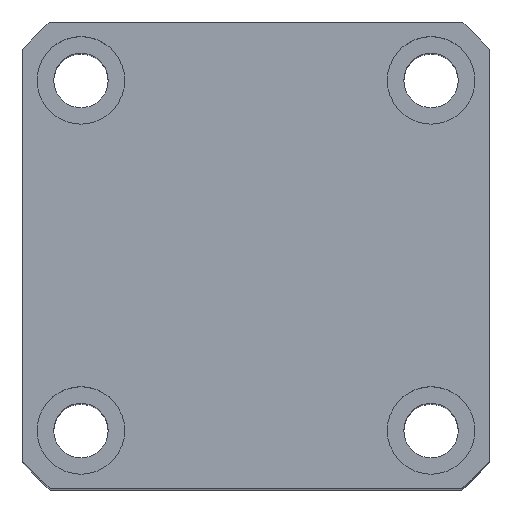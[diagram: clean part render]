
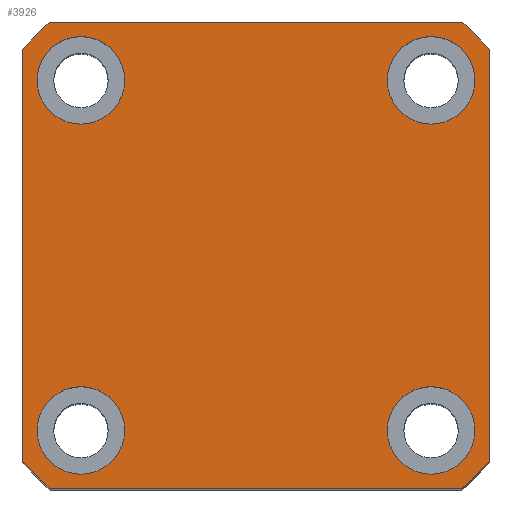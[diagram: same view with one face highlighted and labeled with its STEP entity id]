
A CAD part, top view. The second image highlights one B-rep face of the part: STEP entity #3926.
In plain terms, the highlighted planar face has unit normal (0, 0, 1) as drawn and (1, 0, 0) by its records, which use the part's own axes.
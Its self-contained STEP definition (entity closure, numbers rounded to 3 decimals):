
#78 = ORIENTED_EDGE ( 'NONE', *, *, #1581, .T. ) ;
#84 = ORIENTED_EDGE ( 'NONE', *, *, #10151, .F. ) ;
#185 = ORIENTED_EDGE ( 'NONE', *, *, #8664, .T. ) ;
#238 = AXIS2_PLACEMENT_3D ( 'NONE', #6319, #1394, #7159 ) ;
#306 = CIRCLE ( 'NONE', #5769, 32. ) ;
#332 = EDGE_CURVE ( 'NONE', #7781, #4772, #3427, .T. ) ;
#397 = CARTESIAN_POINT ( 'NONE',  ( 70., -24., -21.166 ) ) ;
#604 = EDGE_LOOP ( 'NONE', ( #185, #78, #8586, #9325, #6692, #9206, #8552, #9698 ) ) ;
#608 = CARTESIAN_POINT ( 'NONE',  ( 70., 18., 22.5 ) ) ;
#640 = VECTOR ( 'NONE', #2888, 1000. ) ;
#647 = CARTESIAN_POINT ( 'NONE',  ( 70., -21.166, -24. ) ) ;
#672 = CARTESIAN_POINT ( 'NONE',  ( 70., -18., -22.5 ) ) ;
#858 = DIRECTION ( 'NONE',  ( 1., 0., 0. ) ) ;
#996 = CARTESIAN_POINT ( 'NONE',  ( 70., 21.166, -24. ) ) ;
#1032 = EDGE_CURVE ( 'NONE', #8938, #4831, #306, .T. ) ;
#1337 = DIRECTION ( 'NONE',  ( 1., 0., 0. ) ) ;
#1354 = VERTEX_POINT ( 'NONE', #8205 ) ;
#1369 = CARTESIAN_POINT ( 'NONE',  ( 70., 0., 0. ) ) ;
#1394 = DIRECTION ( 'NONE',  ( 1., 0., 0. ) ) ;
#1402 = CARTESIAN_POINT ( 'NONE',  ( 70., 18., -18. ) ) ;
#1406 = CIRCLE ( 'NONE', #3997, 4.5 ) ;
#1581 = EDGE_CURVE ( 'NONE', #1654, #10043, #10609, .T. ) ;
#1593 = VERTEX_POINT ( 'NONE', #3388 ) ;
#1635 = CIRCLE ( 'NONE', #10168, 4.5 ) ;
#1654 = VERTEX_POINT ( 'NONE', #996 ) ;
#1690 = VECTOR ( 'NONE', #5628, 1000. ) ;
#1712 = AXIS2_PLACEMENT_3D ( 'NONE', #3298, #9077, #4128 ) ;
#1793 = ORIENTED_EDGE ( 'NONE', *, *, #2963, .F. ) ;
#1969 = EDGE_LOOP ( 'NONE', ( #7516, #6252 ) ) ;
#2067 = CIRCLE ( 'NONE', #238, 4.5 ) ;
#2119 = DIRECTION ( 'NONE',  ( 0., 0., -1. ) ) ;
#2189 = VERTEX_POINT ( 'NONE', #608 ) ;
#2191 = CARTESIAN_POINT ( 'NONE',  ( 70., -21.166, 24. ) ) ;
#2221 = DIRECTION ( 'NONE',  ( 0., 0., -1. ) ) ;
#2369 = DIRECTION ( 'NONE',  ( 1., 0., 0. ) ) ;
#2433 = AXIS2_PLACEMENT_3D ( 'NONE', #7311, #2369, #8147 ) ;
#2467 = AXIS2_PLACEMENT_3D ( 'NONE', #1402, #7166, #2221 ) ;
#2581 = ORIENTED_EDGE ( 'NONE', *, *, #332, .F. ) ;
#2651 = CARTESIAN_POINT ( 'NONE',  ( 70., 18., 13.5 ) ) ;
#2720 = CARTESIAN_POINT ( 'NONE',  ( 70., 0., 0. ) ) ;
#2792 = EDGE_CURVE ( 'NONE', #2189, #5524, #2067, .T. ) ;
#2824 = DIRECTION ( 'NONE',  ( 0., 0., 1. ) ) ;
#2838 = VERTEX_POINT ( 'NONE', #397 ) ;
#2888 = DIRECTION ( 'NONE',  ( 0., 0., -1. ) ) ;
#2950 = FACE_OUTER_BOUND ( 'NONE', #604, .T. ) ;
#2963 = EDGE_CURVE ( 'NONE', #6634, #3888, #7871, .T. ) ;
#2990 = AXIS2_PLACEMENT_3D ( 'NONE', #9828, #4906, #10648 ) ;
#3024 = CARTESIAN_POINT ( 'NONE',  ( 70., -18., 13.5 ) ) ;
#3231 = EDGE_CURVE ( 'NONE', #5524, #2189, #6069, .T. ) ;
#3289 = AXIS2_PLACEMENT_3D ( 'NONE', #3933, #4073, #3966 ) ;
#3298 = CARTESIAN_POINT ( 'NONE',  ( 70., 18., 18. ) ) ;
#3328 = PLANE ( 'NONE',  #7933 ) ;
#3388 = CARTESIAN_POINT ( 'NONE',  ( 70., -18., 22.5 ) ) ;
#3420 = AXIS2_PLACEMENT_3D ( 'NONE', #7413, #7448, #7482 ) ;
#3427 = CIRCLE ( 'NONE', #3420, 4.5 ) ;
#3491 = EDGE_LOOP ( 'NONE', ( #84, #2581 ) ) ;
#3549 = DIRECTION ( 'NONE',  ( 0., 0., -1. ) ) ;
#3629 = DIRECTION ( 'NONE',  ( 1., 0., 0. ) ) ;
#3649 = CARTESIAN_POINT ( 'NONE',  ( 70., 24., 21.166 ) ) ;
#3682 = EDGE_CURVE ( 'NONE', #10043, #8938, #6439, .T. ) ;
#3778 = VERTEX_POINT ( 'NONE', #647 ) ;
#3888 = VERTEX_POINT ( 'NONE', #8198 ) ;
#3926 = ADVANCED_FACE ( 'NONE', ( #5938, #7340, #9528, #5170, #2950 ), #3328, .T. ) ;
#3933 = CARTESIAN_POINT ( 'NONE',  ( 70., 0., 0. ) ) ;
#3966 = DIRECTION ( 'NONE',  ( 0., 0., -1. ) ) ;
#3990 = VECTOR ( 'NONE', #2824, 1000. ) ;
#3997 = AXIS2_PLACEMENT_3D ( 'NONE', #5808, #858, #6636 ) ;
#4073 = DIRECTION ( 'NONE',  ( 1., 0., 0. ) ) ;
#4128 = DIRECTION ( 'NONE',  ( 0., 0., -1. ) ) ;
#4151 = CIRCLE ( 'NONE', #7829, 32. ) ;
#4164 = DIRECTION ( 'NONE',  ( 0., 0., -1. ) ) ;
#4302 = ORIENTED_EDGE ( 'NONE', *, *, #7116, .F. ) ;
#4772 = VERTEX_POINT ( 'NONE', #672 ) ;
#4831 = VERTEX_POINT ( 'NONE', #8190 ) ;
#4905 = EDGE_CURVE ( 'NONE', #3888, #6634, #1406, .T. ) ;
#4906 = DIRECTION ( 'NONE',  ( 1., 0., 0. ) ) ;
#5060 = LINE ( 'NONE', #7941, #640 ) ;
#5170 = FACE_BOUND ( 'NONE', #1969, .T. ) ;
#5360 = CIRCLE ( 'NONE', #6851, 4.5 ) ;
#5414 = EDGE_CURVE ( 'NONE', #4831, #7783, #10274, .T. ) ;
#5431 = ORIENTED_EDGE ( 'NONE', *, *, #4905, .F. ) ;
#5487 = CARTESIAN_POINT ( 'NONE',  ( 70., 18., -13.5 ) ) ;
#5524 = VERTEX_POINT ( 'NONE', #2651 ) ;
#5628 = DIRECTION ( 'NONE',  ( 0., 1., 0. ) ) ;
#5681 = ORIENTED_EDGE ( 'NONE', *, *, #10480, .F. ) ;
#5769 = AXIS2_PLACEMENT_3D ( 'NONE', #1369, #8211, #2119 ) ;
#5808 = CARTESIAN_POINT ( 'NONE',  ( 70., 18., -18. ) ) ;
#5938 = FACE_BOUND ( 'NONE', #3491, .T. ) ;
#6069 = CIRCLE ( 'NONE', #1712, 4.5 ) ;
#6086 = LINE ( 'NONE', #10548, #1690 ) ;
#6252 = ORIENTED_EDGE ( 'NONE', *, *, #2792, .F. ) ;
#6268 = CARTESIAN_POINT ( 'NONE',  ( 70., -18., 18. ) ) ;
#6319 = CARTESIAN_POINT ( 'NONE',  ( 70., 18., 18. ) ) ;
#6439 = LINE ( 'NONE', #7773, #3990 ) ;
#6532 = CARTESIAN_POINT ( 'NONE',  ( 70., 24., 24. ) ) ;
#6634 = VERTEX_POINT ( 'NONE', #5487 ) ;
#6636 = DIRECTION ( 'NONE',  ( 0., 0., -1. ) ) ;
#6692 = ORIENTED_EDGE ( 'NONE', *, *, #5414, .T. ) ;
#6851 = AXIS2_PLACEMENT_3D ( 'NONE', #6268, #1337, #7099 ) ;
#7066 = CIRCLE ( 'NONE', #2990, 4.5 ) ;
#7099 = DIRECTION ( 'NONE',  ( 0., 0., -1. ) ) ;
#7116 = EDGE_CURVE ( 'NONE', #9864, #1593, #5360, .T. ) ;
#7139 = CARTESIAN_POINT ( 'NONE',  ( 70., -18., -13.5 ) ) ;
#7159 = DIRECTION ( 'NONE',  ( 0., 0., -1. ) ) ;
#7166 = DIRECTION ( 'NONE',  ( 1., 0., 0. ) ) ;
#7311 = CARTESIAN_POINT ( 'NONE',  ( 70., 0., 0. ) ) ;
#7340 = FACE_BOUND ( 'NONE', #8156, .T. ) ;
#7413 = CARTESIAN_POINT ( 'NONE',  ( 70., -18., -18. ) ) ;
#7448 = DIRECTION ( 'NONE',  ( 1., 0., 0. ) ) ;
#7482 = DIRECTION ( 'NONE',  ( 0., 0., -1. ) ) ;
#7516 = ORIENTED_EDGE ( 'NONE', *, *, #3231, .F. ) ;
#7773 = CARTESIAN_POINT ( 'NONE',  ( 70., 24., 24. ) ) ;
#7781 = VERTEX_POINT ( 'NONE', #7139 ) ;
#7783 = VERTEX_POINT ( 'NONE', #2191 ) ;
#7829 = AXIS2_PLACEMENT_3D ( 'NONE', #2720, #8491, #3549 ) ;
#7871 = CIRCLE ( 'NONE', #2467, 4.5 ) ;
#7933 = AXIS2_PLACEMENT_3D ( 'NONE', #8230, #9112, #4164 ) ;
#7941 = CARTESIAN_POINT ( 'NONE',  ( 70., -24., 24. ) ) ;
#8147 = DIRECTION ( 'NONE',  ( 0., 0., -1. ) ) ;
#8156 = EDGE_LOOP ( 'NONE', ( #4302, #5681 ) ) ;
#8190 = CARTESIAN_POINT ( 'NONE',  ( 70., 21.166, 24. ) ) ;
#8198 = CARTESIAN_POINT ( 'NONE',  ( 70., 18., -22.5 ) ) ;
#8205 = CARTESIAN_POINT ( 'NONE',  ( 70., -24., 21.166 ) ) ;
#8211 = DIRECTION ( 'NONE',  ( 1., 0., 0. ) ) ;
#8230 = CARTESIAN_POINT ( 'NONE',  ( 70., 0., 0. ) ) ;
#8309 = EDGE_LOOP ( 'NONE', ( #5431, #1793 ) ) ;
#8491 = DIRECTION ( 'NONE',  ( 1., 0., 0. ) ) ;
#8552 = ORIENTED_EDGE ( 'NONE', *, *, #9082, .T. ) ;
#8580 = CARTESIAN_POINT ( 'NONE',  ( 70., -18., 18. ) ) ;
#8586 = ORIENTED_EDGE ( 'NONE', *, *, #3682, .T. ) ;
#8664 = EDGE_CURVE ( 'NONE', #3778, #1654, #6086, .T. ) ;
#8795 = EDGE_CURVE ( 'NONE', #7783, #1354, #4151, .T. ) ;
#8938 = VERTEX_POINT ( 'NONE', #3649 ) ;
#8957 = CARTESIAN_POINT ( 'NONE',  ( 70., 24., -21.166 ) ) ;
#9077 = DIRECTION ( 'NONE',  ( 1., 0., 0. ) ) ;
#9082 = EDGE_CURVE ( 'NONE', #1354, #2838, #5060, .T. ) ;
#9112 = DIRECTION ( 'NONE',  ( 1., 0., 0. ) ) ;
#9206 = ORIENTED_EDGE ( 'NONE', *, *, #8795, .T. ) ;
#9259 = CIRCLE ( 'NONE', #2433, 32. ) ;
#9325 = ORIENTED_EDGE ( 'NONE', *, *, #1032, .T. ) ;
#9393 = DIRECTION ( 'NONE',  ( 0., 0., -1. ) ) ;
#9528 = FACE_BOUND ( 'NONE', #8309, .T. ) ;
#9698 = ORIENTED_EDGE ( 'NONE', *, *, #10074, .T. ) ;
#9828 = CARTESIAN_POINT ( 'NONE',  ( 70., -18., -18. ) ) ;
#9864 = VERTEX_POINT ( 'NONE', #3024 ) ;
#9887 = DIRECTION ( 'NONE',  ( 0., -1., 0. ) ) ;
#10043 = VERTEX_POINT ( 'NONE', #8957 ) ;
#10074 = EDGE_CURVE ( 'NONE', #2838, #3778, #9259, .T. ) ;
#10151 = EDGE_CURVE ( 'NONE', #4772, #7781, #7066, .T. ) ;
#10168 = AXIS2_PLACEMENT_3D ( 'NONE', #8580, #3629, #9393 ) ;
#10274 = LINE ( 'NONE', #6532, #10525 ) ;
#10480 = EDGE_CURVE ( 'NONE', #1593, #9864, #1635, .T. ) ;
#10525 = VECTOR ( 'NONE', #9887, 1000. ) ;
#10548 = CARTESIAN_POINT ( 'NONE',  ( 70., 24., -24. ) ) ;
#10609 = CIRCLE ( 'NONE', #3289, 32. ) ;
#10648 = DIRECTION ( 'NONE',  ( 0., 0., -1. ) ) ;
